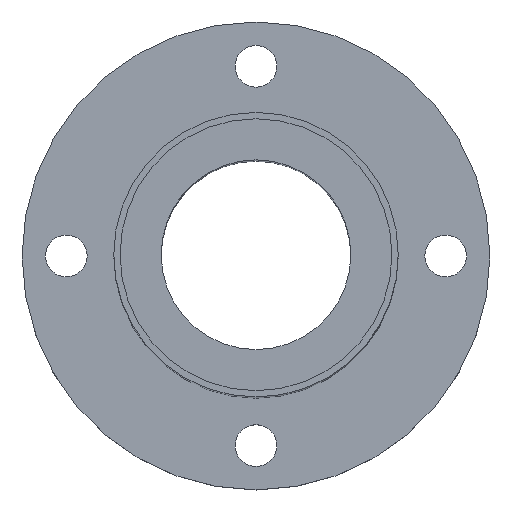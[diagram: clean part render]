
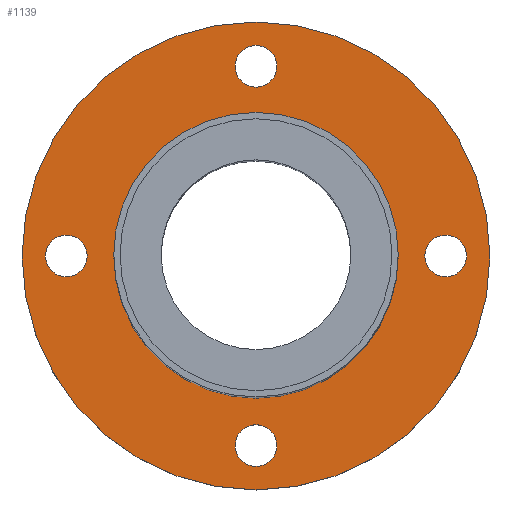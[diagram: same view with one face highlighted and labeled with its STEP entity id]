
A CAD part, top view. The second image highlights one B-rep face of the part: STEP entity #1139.
In plain terms, the highlighted planar face has unit normal (0, 0, 1).
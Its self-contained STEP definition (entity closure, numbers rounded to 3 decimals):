
#51=CARTESIAN_POINT('',(-37.0,-0.1,10.0));
#52=VERTEX_POINT('',#51);
#68=CARTESIAN_POINT('',(37.0,-0.1,10.0));
#69=VERTEX_POINT('',#68);
#76=CARTESIAN_POINT('',(0.0,-0.1,10.0));
#77=DIRECTION('',(0.0,0.0,-1.0));
#78=DIRECTION('',(-1.0,0.0,0.0));
#79=AXIS2_PLACEMENT_3D('',#76,#77,#78);
#80=CIRCLE('',#79,37.0);
#81=EDGE_CURVE('',#69,#52,#80,.T.);
#133=CARTESIAN_POINT('',(-22.5,-0.1,10.0));
#134=VERTEX_POINT('',#133);
#143=CARTESIAN_POINT('',(22.5,-0.1,10.0));
#144=VERTEX_POINT('',#143);
#145=CARTESIAN_POINT('',(0.0,-0.1,10.0));
#146=DIRECTION('',(0.0,0.0,-1.0));
#147=DIRECTION('',(-1.0,0.0,0.0));
#148=AXIS2_PLACEMENT_3D('',#145,#146,#147);
#149=CIRCLE('',#148,22.5);
#150=EDGE_CURVE('',#144,#134,#149,.T.);
#345=CARTESIAN_POINT('',(0.0,26.6,10.0));
#346=VERTEX_POINT('',#345);
#362=CARTESIAN_POINT('',(0.,33.2,10.0));
#363=VERTEX_POINT('',#362);
#370=CARTESIAN_POINT('',(0.0,29.9,10.0));
#371=DIRECTION('',(0.0,0.0,-1.0));
#372=DIRECTION('',(0.0,-1.0,0.0));
#373=AXIS2_PLACEMENT_3D('',#370,#371,#372);
#374=CIRCLE('',#373,3.3);
#375=EDGE_CURVE('',#346,#363,#374,.T.);
#429=CARTESIAN_POINT('',(-26.7,-0.1,10.0));
#430=VERTEX_POINT('',#429);
#446=CARTESIAN_POINT('',(-33.3,-0.1,10.0));
#447=VERTEX_POINT('',#446);
#454=CARTESIAN_POINT('',(-30.0,-0.1,10.0));
#455=DIRECTION('',(0.0,0.0,-1.0));
#456=DIRECTION('',(1.0,0.0,0.0));
#457=AXIS2_PLACEMENT_3D('',#454,#455,#456);
#458=CIRCLE('',#457,3.3);
#459=EDGE_CURVE('',#430,#447,#458,.T.);
#513=CARTESIAN_POINT('',(0.,-26.8,10.0));
#514=VERTEX_POINT('',#513);
#530=CARTESIAN_POINT('',(0.,-33.4,10.0));
#531=VERTEX_POINT('',#530);
#538=CARTESIAN_POINT('',(0.,-30.1,10.0));
#539=DIRECTION('',(0.0,0.0,-1.0));
#540=DIRECTION('',(0.0,1.0,0.0));
#541=AXIS2_PLACEMENT_3D('',#538,#539,#540);
#542=CIRCLE('',#541,3.3);
#543=EDGE_CURVE('',#514,#531,#542,.T.);
#597=CARTESIAN_POINT('',(26.7,-0.1,10.0));
#598=VERTEX_POINT('',#597);
#614=CARTESIAN_POINT('',(33.3,-0.1,10.0));
#615=VERTEX_POINT('',#614);
#622=CARTESIAN_POINT('',(30.0,-0.1,10.0));
#623=DIRECTION('',(0.0,0.0,-1.0));
#624=DIRECTION('',(-1.0,0.0,0.0));
#625=AXIS2_PLACEMENT_3D('',#622,#623,#624);
#626=CIRCLE('',#625,3.3);
#627=EDGE_CURVE('',#598,#615,#626,.T.);
#638=CARTESIAN_POINT('',(30.0,-0.1,10.0));
#639=DIRECTION('',(0.0,0.0,-1.0));
#640=DIRECTION('',(-1.0,0.0,0.0));
#641=AXIS2_PLACEMENT_3D('',#638,#639,#640);
#642=CIRCLE('',#641,3.3);
#643=EDGE_CURVE('',#615,#598,#642,.T.);
#700=CARTESIAN_POINT('',(0.,-30.1,10.0));
#701=DIRECTION('',(0.0,0.0,-1.0));
#702=DIRECTION('',(0.0,1.0,0.0));
#703=AXIS2_PLACEMENT_3D('',#700,#701,#702);
#704=CIRCLE('',#703,3.3);
#705=EDGE_CURVE('',#531,#514,#704,.T.);
#762=CARTESIAN_POINT('',(-30.0,-0.1,10.0));
#763=DIRECTION('',(0.0,0.0,-1.0));
#764=DIRECTION('',(1.0,0.0,0.0));
#765=AXIS2_PLACEMENT_3D('',#762,#763,#764);
#766=CIRCLE('',#765,3.3);
#767=EDGE_CURVE('',#447,#430,#766,.T.);
#824=CARTESIAN_POINT('',(0.0,29.9,10.0));
#825=DIRECTION('',(0.0,0.0,-1.0));
#826=DIRECTION('',(0.0,-1.0,0.0));
#827=AXIS2_PLACEMENT_3D('',#824,#825,#826);
#828=CIRCLE('',#827,3.3);
#829=EDGE_CURVE('',#363,#346,#828,.T.);
#1056=CARTESIAN_POINT('',(0.0,-0.1,10.0));
#1057=DIRECTION('',(0.0,0.0,-1.0));
#1058=DIRECTION('',(-1.0,0.0,0.0));
#1059=AXIS2_PLACEMENT_3D('',#1056,#1057,#1058);
#1060=CIRCLE('',#1059,22.5);
#1061=EDGE_CURVE('',#134,#144,#1060,.T.);
#1098=CARTESIAN_POINT('',(0.0,-0.1,10.0));
#1099=DIRECTION('',(0.0,0.0,-1.0));
#1100=DIRECTION('',(-1.0,0.0,0.0));
#1101=AXIS2_PLACEMENT_3D('',#1098,#1099,#1100);
#1102=CIRCLE('',#1101,37.0);
#1103=EDGE_CURVE('',#52,#69,#1102,.T.);
#1110=CARTESIAN_POINT('',(0.0,-0.1,10.0));
#1111=DIRECTION('',(0.0,0.0,-1.0));
#1112=DIRECTION('',(-1.0,0.0,0.0));
#1113=AXIS2_PLACEMENT_3D('',#1110,#1111,#1112);
#1114=PLANE('',#1113);
#1115=ORIENTED_EDGE('',*,*,#81,.F.);
#1116=ORIENTED_EDGE('',*,*,#1103,.F.);
#1117=EDGE_LOOP('',(#1115,#1116));
#1118=FACE_OUTER_BOUND('',#1117,.T.);
#1119=ORIENTED_EDGE('',*,*,#627,.T.);
#1120=ORIENTED_EDGE('',*,*,#643,.T.);
#1121=EDGE_LOOP('',(#1119,#1120));
#1122=FACE_BOUND('',#1121,.T.);
#1123=ORIENTED_EDGE('',*,*,#543,.T.);
#1124=ORIENTED_EDGE('',*,*,#705,.T.);
#1125=EDGE_LOOP('',(#1123,#1124));
#1126=FACE_BOUND('',#1125,.T.);
#1127=ORIENTED_EDGE('',*,*,#459,.T.);
#1128=ORIENTED_EDGE('',*,*,#767,.T.);
#1129=EDGE_LOOP('',(#1127,#1128));
#1130=FACE_BOUND('',#1129,.T.);
#1131=ORIENTED_EDGE('',*,*,#375,.T.);
#1132=ORIENTED_EDGE('',*,*,#829,.T.);
#1133=EDGE_LOOP('',(#1131,#1132));
#1134=FACE_BOUND('',#1133,.T.);
#1135=ORIENTED_EDGE('',*,*,#150,.T.);
#1136=ORIENTED_EDGE('',*,*,#1061,.T.);
#1137=EDGE_LOOP('',(#1135,#1136));
#1138=FACE_BOUND('',#1137,.T.);
#1139=ADVANCED_FACE('',(#1118,#1122,#1126,#1130,#1134,#1138),#1114,.F.);
